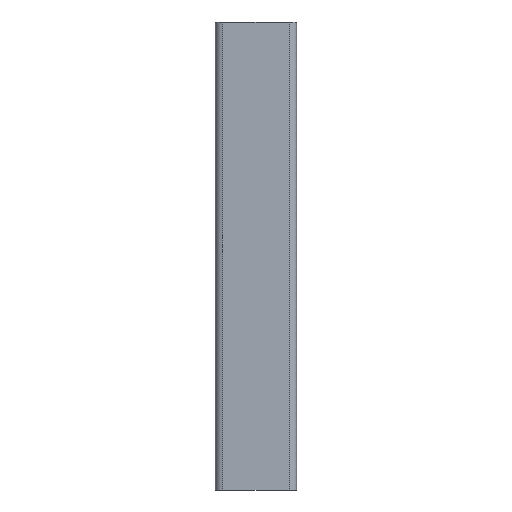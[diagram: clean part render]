
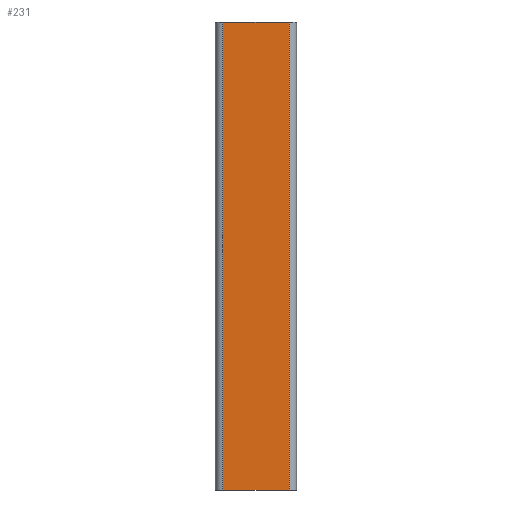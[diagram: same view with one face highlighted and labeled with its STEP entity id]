
A CAD part, left-side view. The second image highlights one B-rep face of the part: STEP entity #231.
In plain terms, the highlighted planar face has unit normal (-1, 0, 0).
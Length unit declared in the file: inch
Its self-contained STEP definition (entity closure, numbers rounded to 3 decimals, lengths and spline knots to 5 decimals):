
#8 = VERTEX_POINT ( 'NONE', #515 ) ;
#10 = VERTEX_POINT ( 'NONE', #517 ) ;
#20 = CARTESIAN_POINT ( 'NONE',  ( -0.545, 0.84937, 6. ) ) ;
#64 = VECTOR ( 'NONE', #154, 39.37008 ) ;
#74 = VECTOR ( 'NONE', #102, 39.37008 ) ;
#83 = VECTOR ( 'NONE', #105, 39.37008 ) ;
#100 = LINE ( 'NONE', #101, #74 ) ;
#101 = CARTESIAN_POINT ( 'NONE',  ( -0.545, 0.84937, 6. ) ) ;
#102 = DIRECTION ( 'NONE',  ( 0., 0., -1. ) ) ;
#103 = LINE ( 'NONE', #104, #83 ) ;
#104 = CARTESIAN_POINT ( 'NONE',  ( -0.545, -0.84937, 6. ) ) ;
#105 = DIRECTION ( 'NONE',  ( 0., 0., -1. ) ) ;
#147 = CARTESIAN_POINT ( 'NONE',  ( -0.545, -0.84937, -6. ) ) ;
#150 = LINE ( 'NONE', #147, #64 ) ;
#154 = DIRECTION ( 'NONE',  ( 0., -1., 0. ) ) ;
#175 = CARTESIAN_POINT ( 'NONE',  ( -0.545, -0.84937, 6. ) ) ;
#202 = VERTEX_POINT ( 'NONE', #175 ) ;
#221 = EDGE_CURVE ( 'NONE', #10, #8, #150, .T. ) ;
#231 = ADVANCED_FACE ( 'NONE', ( #385 ), #387, .F. ) ;
#250 = EDGE_CURVE ( 'NONE', #556, #10, #100, .T. ) ;
#251 = EDGE_CURVE ( 'NONE', #202, #8, #103, .T. ) ;
#269 = EDGE_CURVE ( 'NONE', #556, #202, #284, .T. ) ;
#284 = LINE ( 'NONE', #531, #425 ) ;
#385 = FACE_OUTER_BOUND ( 'NONE', #505, .T. ) ;
#387 = PLANE ( 'NONE',  #401 ) ;
#388 = CARTESIAN_POINT ( 'NONE',  ( -0.545, -0.84937, 6. ) ) ;
#389 = DIRECTION ( 'NONE',  ( 1., 0., 0. ) ) ;
#390 = DIRECTION ( 'NONE',  ( 0., 0., -1. ) ) ;
#401 = AXIS2_PLACEMENT_3D ( 'NONE', #388, #389, #390 ) ;
#425 = VECTOR ( 'NONE', #532, 39.37008 ) ;
#467 = ORIENTED_EDGE ( 'NONE', *, *, #221, .T. ) ;
#468 = ORIENTED_EDGE ( 'NONE', *, *, #251, .F. ) ;
#469 = ORIENTED_EDGE ( 'NONE', *, *, #269, .F. ) ;
#470 = ORIENTED_EDGE ( 'NONE', *, *, #250, .T. ) ;
#505 = EDGE_LOOP ( 'NONE', ( #467, #468, #469, #470 ) ) ;
#515 = CARTESIAN_POINT ( 'NONE',  ( -0.545, -0.84937, -6. ) ) ;
#517 = CARTESIAN_POINT ( 'NONE',  ( -0.545, 0.84937, -6. ) ) ;
#531 = CARTESIAN_POINT ( 'NONE',  ( -0.545, -0.84937, 6. ) ) ;
#532 = DIRECTION ( 'NONE',  ( 0., -1., 0. ) ) ;
#556 = VERTEX_POINT ( 'NONE', #20 ) ;
